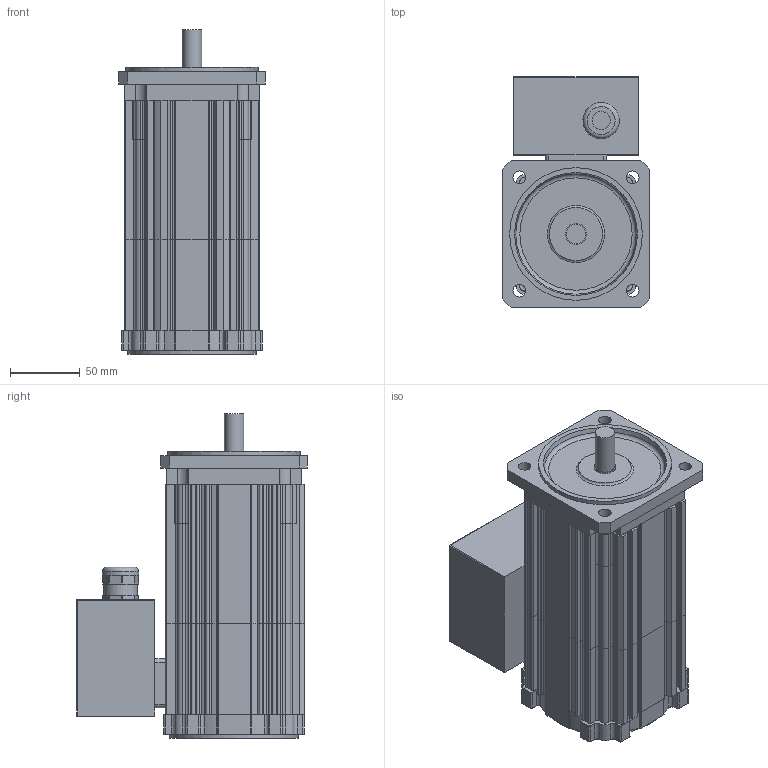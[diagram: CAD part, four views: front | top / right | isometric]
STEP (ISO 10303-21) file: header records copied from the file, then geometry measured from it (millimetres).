
FILE_DESCRIPTION(/* description */ (''),/* implementation_level */ '2;1');
FILE_NAME(/* name */ 'KSA449',/* time_stamp */ '2009-02-26T13:41:51+01:00',/* author */ (''),/* organization */ (''),/* preprocessor_version */ 'ST-DEVELOPER v8',/* originating_system */ 'UNIGRAPHICS SOLUTIONS - UNIGRAPHICS 18.0',/* authorisation */ '');
FILE_SCHEMA (('AUTOMOTIVE_DESIGN { 1 2 10303 214 0 1 1 1 }'));
Length unit declared in the file: millimetre
Products named in the file (6): 0280391350_0; Lagersch4AS_0; Lagersch4BS_0; 089105X_0; Klemmenkasten_0; KSA444_0
Assembly tree (5 placements, depth 3):
  KSA444_0
    089105X_0
    Lagersch4BS_0
    Klemmenkasten_0
      0280391350_0
    Lagersch4AS_0
Bounding box: 105 x 165.35 x 232.5 mm (x, y, z)
Volume: 1295006.4 mm3; surface area: 324002 mm2
Topology: 6 solids, 6 shells, 582 faces, 1644 edges, 1085 vertices
Faces by surface type: cylinder 279, plane 269, torus 12, cone 10, bspline 8, sphere 4
Full cylindrical faces by diameter (mm): 9 x4, 13 x1, 14 x1, 15 x1, 18 x1, 20 x1, 24 x1, 26 x1, 89.6 x2, 91 x1, 95 x1
Entity records: 19170 total; most frequent: CARTESIAN_POINT 3612, DIRECTION 3320, ORIENTED_EDGE 3210, EDGE_CURVE 1605, AXIS2_PLACEMENT_3D 1191, VERTEX_POINT 1075, LINE 938, VECTOR 938
